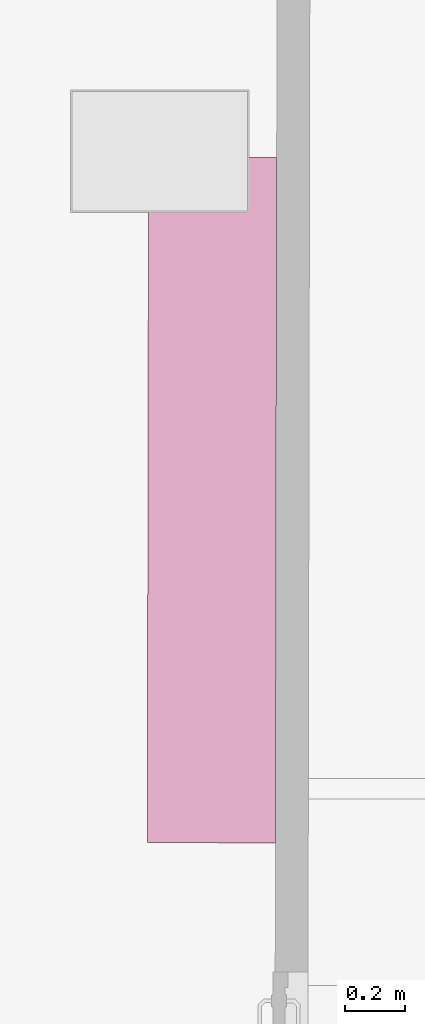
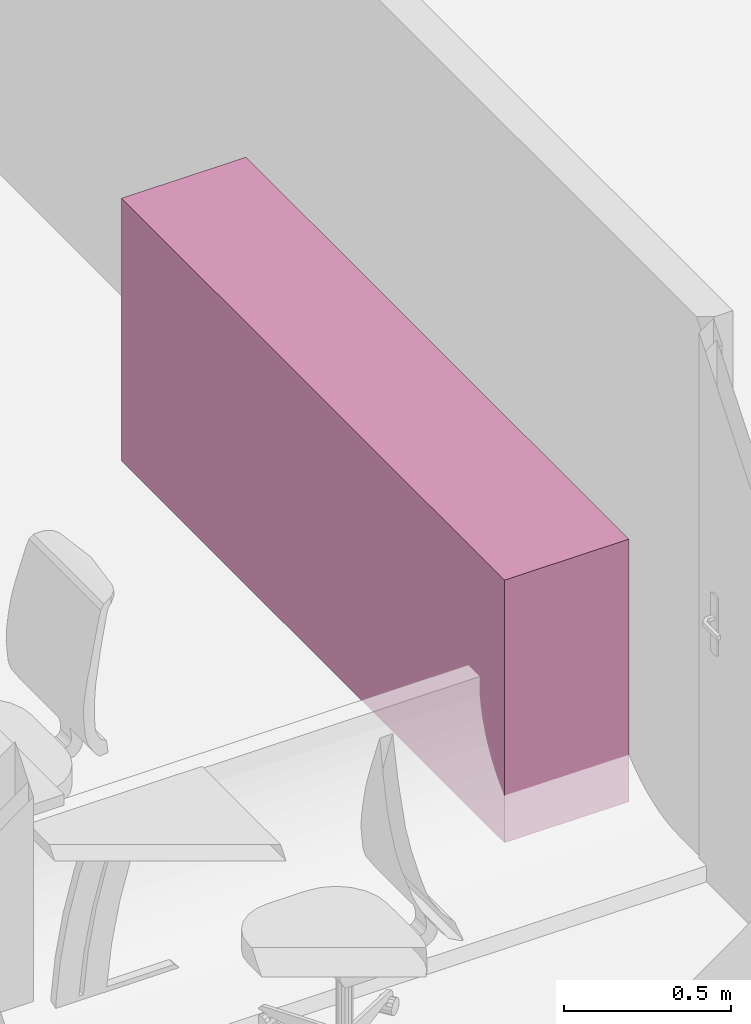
# One storey, part 97 of 128: 1 furnishing.
"""IFC2X3 building model written with IfcOpenShell, lengths in metres."""

from ifc_helpers import new_model, entity, si_unit, converted_unit, derived_unit, direction, frame, origin, origin_2d_with_axis, place, context, subcontext, project, spatial, rectangle, extrude, source, transform, mapped, material, type_object, type_shapes, element, save


model = new_model("IFC2X3")

# Units and contexts
model_context = context("Model", 3, precision=1e-05, world=origin(), true_north=direction((6.123031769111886e-17, 1.0)))
body_context = subcontext(model_context, "Body", "Model", "MODEL_VIEW")
ifc_project = project(units=[si_unit("LENGTHUNIT", "METRE"), si_unit("AREAUNIT", "SQUARE_METRE"), converted_unit("PLANEANGLEUNIT", "DEGREE", entity("IfcPlaneAngleMeasure", 0.017453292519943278), si_unit("PLANEANGLEUNIT", "RADIAN"), dimensions=[0, 0, 0, 0, 0, 0, 0]), derived_unit("THERMALTRANSMITTANCEUNIT", [(si_unit("MASSUNIT", "GRAM", prefix="KILO"), 1), (si_unit("THERMODYNAMICTEMPERATUREUNIT", "KELVIN"), -1), (si_unit("TIMEUNIT", "SECOND"), -3)])], contexts=[model_context])

# Site, building, storey
site_placement = place(None, origin())
site = spatial("IfcSite", under=ifc_project, at=site_placement, Name="Default", CompositionType="ELEMENT")
building_placement = place(site_placement, origin())
building = spatial("IfcBuilding", under=site, at=building_placement, CompositionType="ELEMENT")
storey_placement = place(building_placement, origin())
storey = spatial("IfcBuildingStorey", under=building, at=storey_placement, Name="00_RDC CAF", CompositionType="ELEMENT", Elevation=2.4982504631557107e-13)

# Furnishing
ifc_material = material(Name="ARC - Mo - Blanc")
furniture_type = type_object("IfcFurnitureType", Name="Mo_Armoire_Porte_Coulissante:Mo_Armoire_basse_2300x430x960mm", AssemblyPlace="NOTDEFINED", material=ifc_material)
shared_shape = source(origin(), body_context, "Body", "SweptSolid", [
    extrude(rectangle(XDim=0.4300000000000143, YDim=2.300000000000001, at=origin_2d_with_axis()), frame((0.04470032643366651, 0.2150000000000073, 0.0), z_axis=(0.0, 0.0, 1.0), x_axis=(0.0, 1.0, 0.0)), (0.0, 0.0, 1.0), 0.96),
])
type_shapes(furniture_type, [shared_shape])
furnishing_placement = place(storey_placement, frame((22.98974965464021, 139.3747085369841, 0.15999999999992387), z_axis=(0.0, 0.0, 1.0), x_axis=(0.0018280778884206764, 0.9999983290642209, 0.0)))
element("IfcFurnishingElement", 1, at=furnishing_placement, inside=storey, type_object=furniture_type, material=ifc_material, Name="Mo_Armoire_Porte_Coulissante:Mo_Armoire_basse_2300x430x960mm", ObjectType="Mo_Armoire_Porte_Coulissante:Mo_Armoire_basse_2300x430x960mm", context=body_context, shape_type="MappedRepresentation", body=[
    mapped(shared_shape, transform((0.0, 0.0, 0.0), scale=1.0)),
])

save(model, "model.ifc")
